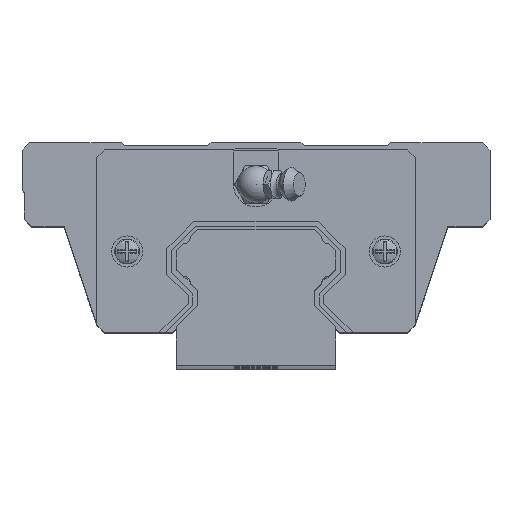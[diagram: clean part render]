
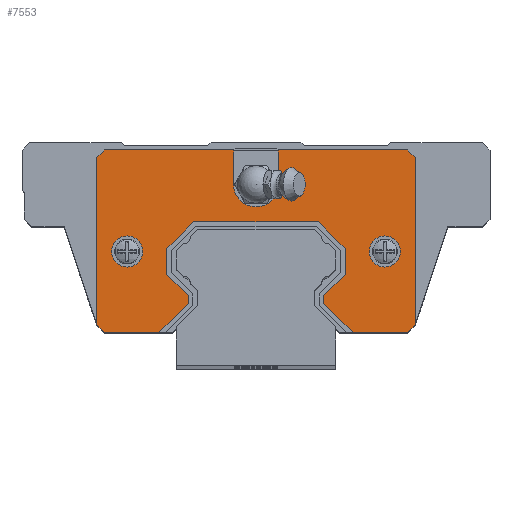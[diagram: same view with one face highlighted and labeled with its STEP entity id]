
A CAD part, top view. The second image highlights one B-rep face of the part: STEP entity #7553.
In plain terms, the highlighted planar face has unit normal (0, 0, 1).
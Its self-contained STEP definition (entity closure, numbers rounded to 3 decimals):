
#586=LINE('',#12169,#1378);
#590=LINE('',#12177,#1382);
#591=LINE('',#12179,#1383);
#592=LINE('',#12181,#1384);
#593=LINE('',#12183,#1385);
#594=LINE('',#12185,#1386);
#595=LINE('',#12187,#1387);
#596=LINE('',#12189,#1388);
#597=LINE('',#12191,#1389);
#598=LINE('',#12193,#1390);
#599=LINE('',#12195,#1391);
#600=LINE('',#12197,#1392);
#601=LINE('',#12199,#1393);
#602=LINE('',#12201,#1394);
#603=LINE('',#12203,#1395);
#604=LINE('',#12205,#1396);
#605=LINE('',#12207,#1397);
#606=LINE('',#12209,#1398);
#607=LINE('',#12213,#1399);
#608=LINE('',#12215,#1400);
#609=LINE('',#12217,#1401);
#610=LINE('',#12219,#1402);
#611=LINE('',#12220,#1403);
#1378=VECTOR('',#9882,1000.);
#1382=VECTOR('',#9888,1000.);
#1383=VECTOR('',#9889,1000.);
#1384=VECTOR('',#9890,1000.);
#1385=VECTOR('',#9891,1000.);
#1386=VECTOR('',#9892,1000.);
#1387=VECTOR('',#9893,1000.);
#1388=VECTOR('',#9894,1000.);
#1389=VECTOR('',#9895,1000.);
#1390=VECTOR('',#9896,1000.);
#1391=VECTOR('',#9897,1000.);
#1392=VECTOR('',#9898,1000.);
#1393=VECTOR('',#9899,1000.);
#1394=VECTOR('',#9900,1000.);
#1395=VECTOR('',#9901,1000.);
#1396=VECTOR('',#9902,1000.);
#1397=VECTOR('',#9903,1000.);
#1398=VECTOR('',#9904,1000.);
#1399=VECTOR('',#9907,1000.);
#1400=VECTOR('',#9908,1000.);
#1401=VECTOR('',#9909,1000.);
#1402=VECTOR('',#9910,1000.);
#1403=VECTOR('',#9911,1000.);
#1851=PLANE('',#8215);
#2090=FACE_BOUND('',#2924,.T.);
#2091=FACE_BOUND('',#2925,.T.);
#2427=FACE_OUTER_BOUND('',#2923,.T.);
#2923=EDGE_LOOP('',(#6553,#6554,#6555,#6556,#6557,#6558,#6559,#6560,#6561,
#6562,#6563,#6564,#6565,#6566,#6567,#6568,#6569,#6570,#6571,#6572,#6573,
#6574,#6575,#6576));
#2924=EDGE_LOOP('',(#6577));
#2925=EDGE_LOOP('',(#6578));
#3248=CIRCLE('',#8192,3.325);
#3250=CIRCLE('',#8195,3.325);
#3266=CIRCLE('',#8216,4.8);
#3816=VERTEX_POINT('',#12118);
#3818=VERTEX_POINT('',#12123);
#3838=VERTEX_POINT('',#12166);
#3839=VERTEX_POINT('',#12168);
#3842=VERTEX_POINT('',#12176);
#3843=VERTEX_POINT('',#12178);
#3844=VERTEX_POINT('',#12180);
#3845=VERTEX_POINT('',#12182);
#3846=VERTEX_POINT('',#12184);
#3847=VERTEX_POINT('',#12186);
#3848=VERTEX_POINT('',#12188);
#3849=VERTEX_POINT('',#12190);
#3850=VERTEX_POINT('',#12192);
#3851=VERTEX_POINT('',#12194);
#3852=VERTEX_POINT('',#12196);
#3853=VERTEX_POINT('',#12198);
#3854=VERTEX_POINT('',#12200);
#3855=VERTEX_POINT('',#12202);
#3856=VERTEX_POINT('',#12204);
#3857=VERTEX_POINT('',#12206);
#3858=VERTEX_POINT('',#12208);
#3859=VERTEX_POINT('',#12210);
#3860=VERTEX_POINT('',#12212);
#3861=VERTEX_POINT('',#12214);
#3862=VERTEX_POINT('',#12216);
#3863=VERTEX_POINT('',#12218);
#4765=EDGE_CURVE('',#3816,#3816,#3248,.T.);
#4767=EDGE_CURVE('',#3818,#3818,#3250,.T.);
#4787=EDGE_CURVE('',#3839,#3838,#586,.T.);
#4791=EDGE_CURVE('',#3838,#3842,#590,.T.);
#4792=EDGE_CURVE('',#3842,#3843,#591,.T.);
#4793=EDGE_CURVE('',#3843,#3844,#592,.T.);
#4794=EDGE_CURVE('',#3844,#3845,#593,.T.);
#4795=EDGE_CURVE('',#3845,#3846,#594,.T.);
#4796=EDGE_CURVE('',#3846,#3847,#595,.T.);
#4797=EDGE_CURVE('',#3847,#3848,#596,.T.);
#4798=EDGE_CURVE('',#3848,#3849,#597,.T.);
#4799=EDGE_CURVE('',#3849,#3850,#598,.T.);
#4800=EDGE_CURVE('',#3850,#3851,#599,.T.);
#4801=EDGE_CURVE('',#3851,#3852,#600,.T.);
#4802=EDGE_CURVE('',#3852,#3853,#601,.T.);
#4803=EDGE_CURVE('',#3853,#3854,#602,.T.);
#4804=EDGE_CURVE('',#3854,#3855,#603,.T.);
#4805=EDGE_CURVE('',#3855,#3856,#604,.T.);
#4806=EDGE_CURVE('',#3856,#3857,#605,.T.);
#4807=EDGE_CURVE('',#3857,#3858,#606,.T.);
#4808=EDGE_CURVE('',#3858,#3859,#3266,.T.);
#4809=EDGE_CURVE('',#3859,#3860,#607,.T.);
#4810=EDGE_CURVE('',#3860,#3861,#608,.T.);
#4811=EDGE_CURVE('',#3861,#3862,#609,.T.);
#4812=EDGE_CURVE('',#3862,#3863,#610,.T.);
#4813=EDGE_CURVE('',#3863,#3839,#611,.T.);
#6553=ORIENTED_EDGE('',*,*,#4791,.T.);
#6554=ORIENTED_EDGE('',*,*,#4792,.T.);
#6555=ORIENTED_EDGE('',*,*,#4793,.T.);
#6556=ORIENTED_EDGE('',*,*,#4794,.T.);
#6557=ORIENTED_EDGE('',*,*,#4795,.T.);
#6558=ORIENTED_EDGE('',*,*,#4796,.T.);
#6559=ORIENTED_EDGE('',*,*,#4797,.T.);
#6560=ORIENTED_EDGE('',*,*,#4798,.T.);
#6561=ORIENTED_EDGE('',*,*,#4799,.T.);
#6562=ORIENTED_EDGE('',*,*,#4800,.T.);
#6563=ORIENTED_EDGE('',*,*,#4801,.T.);
#6564=ORIENTED_EDGE('',*,*,#4802,.T.);
#6565=ORIENTED_EDGE('',*,*,#4803,.T.);
#6566=ORIENTED_EDGE('',*,*,#4804,.T.);
#6567=ORIENTED_EDGE('',*,*,#4805,.T.);
#6568=ORIENTED_EDGE('',*,*,#4806,.T.);
#6569=ORIENTED_EDGE('',*,*,#4807,.T.);
#6570=ORIENTED_EDGE('',*,*,#4808,.T.);
#6571=ORIENTED_EDGE('',*,*,#4809,.T.);
#6572=ORIENTED_EDGE('',*,*,#4810,.T.);
#6573=ORIENTED_EDGE('',*,*,#4811,.T.);
#6574=ORIENTED_EDGE('',*,*,#4812,.T.);
#6575=ORIENTED_EDGE('',*,*,#4813,.T.);
#6576=ORIENTED_EDGE('',*,*,#4787,.T.);
#6577=ORIENTED_EDGE('',*,*,#4767,.T.);
#6578=ORIENTED_EDGE('',*,*,#4765,.F.);
#7553=ADVANCED_FACE('',(#2427,#2090,#2091),#1851,.F.);
#8192=AXIS2_PLACEMENT_3D('',#12119,#9832,#9833);
#8195=AXIS2_PLACEMENT_3D('',#12124,#9838,#9839);
#8215=AXIS2_PLACEMENT_3D('',#12175,#9886,#9887);
#8216=AXIS2_PLACEMENT_3D('',#12211,#9905,#9906);
#9832=DIRECTION('center_axis',(0.,0.,1.));
#9833=DIRECTION('ref_axis',(1.,0.,0.));
#9838=DIRECTION('center_axis',(0.,0.,-1.));
#9839=DIRECTION('ref_axis',(-1.,0.,0.));
#9882=DIRECTION('',(1.,0.,0.));
#9886=DIRECTION('center_axis',(0.,0.,-1.));
#9887=DIRECTION('ref_axis',(-1.,0.,0.));
#9888=DIRECTION('',(0.707,0.707,0.));
#9889=DIRECTION('',(0.,1.,0.));
#9890=DIRECTION('',(-0.707,0.707,0.));
#9891=DIRECTION('',(0.,1.,0.));
#9892=DIRECTION('',(0.707,0.707,0.));
#9893=DIRECTION('',(1.,0.,0.));
#9894=DIRECTION('',(0.707,-0.707,0.));
#9895=DIRECTION('',(0.,-1.,0.));
#9896=DIRECTION('',(-0.707,-0.707,0.));
#9897=DIRECTION('',(0.,-1.,0.));
#9898=DIRECTION('',(0.707,-0.707,0.));
#9899=DIRECTION('',(1.,0.,0.));
#9900=DIRECTION('',(0.707,0.707,0.));
#9901=DIRECTION('',(0.,1.,0.));
#9902=DIRECTION('',(-0.707,0.707,0.));
#9903=DIRECTION('',(-1.,0.,0.));
#9904=DIRECTION('',(0.,-1.,0.));
#9905=DIRECTION('center_axis',(0.,0.,-1.));
#9906=DIRECTION('ref_axis',(-1.,0.,0.));
#9907=DIRECTION('',(0.,1.,0.));
#9908=DIRECTION('',(-1.,0.,0.));
#9909=DIRECTION('',(-0.707,-0.707,0.));
#9910=DIRECTION('',(0.,-1.,0.));
#9911=DIRECTION('',(0.707,-0.707,0.));
#12118=CARTESIAN_POINT('',(-24.215,17.28,56.2));
#12119=CARTESIAN_POINT('Origin',(-27.54,17.28,56.2));
#12123=CARTESIAN_POINT('',(30.865,17.28,56.2));
#12124=CARTESIAN_POINT('Origin',(27.54,17.28,56.2));
#12166=CARTESIAN_POINT('',(-20.735,0.,56.2));
#12168=CARTESIAN_POINT('',(-32.4,0.,56.2));
#12169=CARTESIAN_POINT('',(-32.4,0.,56.2));
#12175=CARTESIAN_POINT('Origin',(0.,-32.4,56.2));
#12176=CARTESIAN_POINT('',(-14.504,6.231,56.2));
#12177=CARTESIAN_POINT('',(-20.735,0.,56.2));
#12178=CARTESIAN_POINT('',(-14.504,7.795,56.2));
#12179=CARTESIAN_POINT('',(-14.504,6.231,56.2));
#12180=CARTESIAN_POINT('',(-19.04,12.331,56.2));
#12181=CARTESIAN_POINT('',(-14.504,7.795,56.2));
#12182=CARTESIAN_POINT('',(-19.04,17.909,56.2));
#12183=CARTESIAN_POINT('',(-19.04,12.331,56.2));
#12184=CARTESIAN_POINT('',(-13.309,23.64,56.2));
#12185=CARTESIAN_POINT('',(-19.04,17.909,56.2));
#12186=CARTESIAN_POINT('',(13.309,23.64,56.2));
#12187=CARTESIAN_POINT('',(-13.309,23.64,56.2));
#12188=CARTESIAN_POINT('',(19.04,17.909,56.2));
#12189=CARTESIAN_POINT('',(19.04,17.909,56.2));
#12190=CARTESIAN_POINT('',(19.04,12.331,56.2));
#12191=CARTESIAN_POINT('',(19.04,12.331,56.2));
#12192=CARTESIAN_POINT('',(14.504,7.795,56.2));
#12193=CARTESIAN_POINT('',(14.504,7.795,56.2));
#12194=CARTESIAN_POINT('',(14.504,6.231,56.2));
#12195=CARTESIAN_POINT('',(14.504,6.231,56.2));
#12196=CARTESIAN_POINT('',(20.735,0.,56.2));
#12197=CARTESIAN_POINT('',(20.735,0.,56.2));
#12198=CARTESIAN_POINT('',(32.4,0.,56.2));
#12199=CARTESIAN_POINT('',(-32.4,0.,56.2));
#12200=CARTESIAN_POINT('',(34.02,1.62,56.2));
#12201=CARTESIAN_POINT('',(34.02,1.62,56.2));
#12202=CARTESIAN_POINT('',(34.02,37.356,56.2));
#12203=CARTESIAN_POINT('',(34.02,1.62,56.2));
#12204=CARTESIAN_POINT('',(32.4,38.976,56.2));
#12205=CARTESIAN_POINT('',(34.02,37.356,56.2));
#12206=CARTESIAN_POINT('',(4.8,38.976,56.2));
#12207=CARTESIAN_POINT('',(-32.4,38.976,56.2));
#12208=CARTESIAN_POINT('',(4.8,31.6,56.2));
#12209=CARTESIAN_POINT('',(4.8,31.6,56.2));
#12210=CARTESIAN_POINT('',(-4.8,31.6,56.2));
#12211=CARTESIAN_POINT('Origin',(0.,31.6,56.2));
#12212=CARTESIAN_POINT('',(-4.8,38.976,56.2));
#12213=CARTESIAN_POINT('',(-4.8,38.976,56.2));
#12214=CARTESIAN_POINT('',(-32.4,38.976,56.2));
#12215=CARTESIAN_POINT('',(-32.4,38.976,56.2));
#12216=CARTESIAN_POINT('',(-34.02,37.356,56.2));
#12217=CARTESIAN_POINT('',(-34.02,37.356,56.2));
#12218=CARTESIAN_POINT('',(-34.02,1.62,56.2));
#12219=CARTESIAN_POINT('',(-34.02,1.62,56.2));
#12220=CARTESIAN_POINT('',(-34.02,1.62,56.2));
